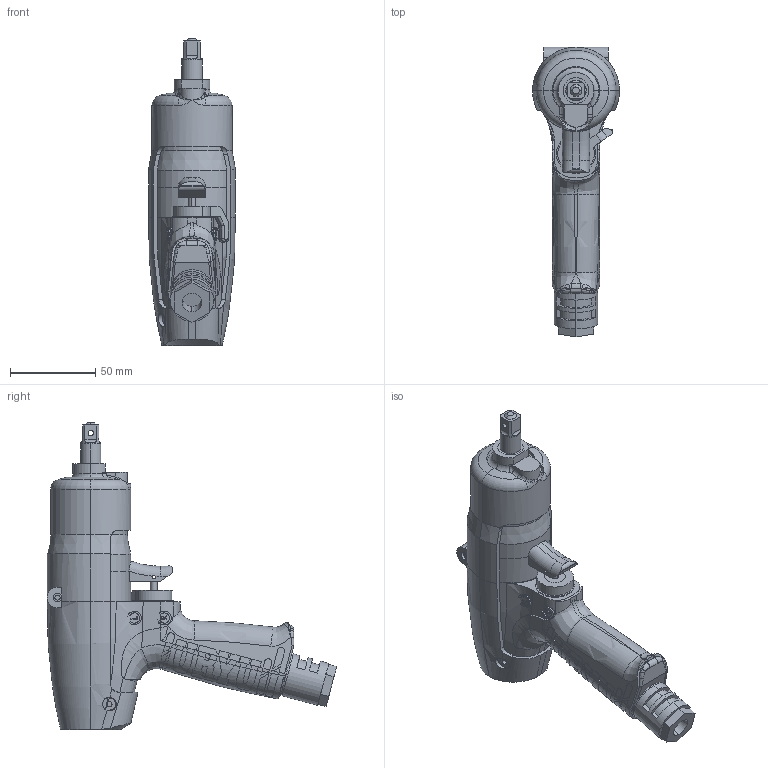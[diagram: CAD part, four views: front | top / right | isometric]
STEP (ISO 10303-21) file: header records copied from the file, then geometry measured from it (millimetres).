
FILE_DESCRIPTION (( 'STEP AP203' ), '1' );
FILE_NAME ('UAT70.STEP', '2015-07-23T01:58:25', ( '' ), ( '' ), 'SwSTEP 2.0', 'SolidWorks 2014', '' );
FILE_SCHEMA (( 'CONFIG_CONTROL_DESIGN' ));
Length unit declared in the file: millimetre
Products named in the file (8): 4802128_ULT70; 1471072_ULT70; 1478422_UAT70; 1478407_ULT70; UAT70; 1473196_ULT70; 1474396_ULT70; 1470256_UAT70
Assembly tree (7 placements, depth 2):
  UAT70
    1473196_ULT70
    1474396_ULT70
    1470256_UAT70
    4802128_ULT70
    1471072_ULT70
    1478422_UAT70
    1478407_ULT70
Bounding box: 51 x 169.85 x 180.3 mm (x, y, z)
Volume: 369215.4 mm3; surface area: 100232.5 mm2
Topology: 7 solids, 7 shells, 1199 faces, 3332 edges, 2165 vertices
Faces by surface type: plane 712, cylinder 225, bspline 192, torus 43, cone 27
Entity records: 57306 total; most frequent: CARTESIAN_POINT 29043, ORIENTED_EDGE 6644, DIRECTION 4343, EDGE_CURVE 3322, VERTEX_POINT 2165, AXIS2_PLACEMENT_3D 1458, LINE 1427, VECTOR 1427
